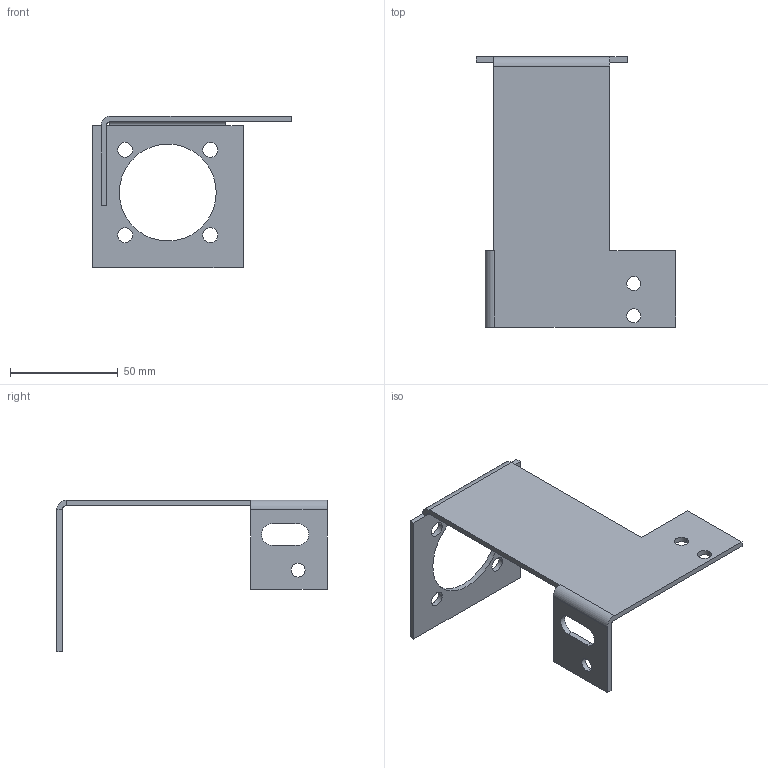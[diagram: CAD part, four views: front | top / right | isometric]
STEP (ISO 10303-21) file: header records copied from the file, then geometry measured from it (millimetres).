
FILE_DESCRIPTION((''),'2;1');
FILE_NAME('HMK2','2020-03-08T',('brijesh.srivastava'),(''),'CREO PARAMETRIC BY PTC INC, 2015080','CREO PARAMETRIC BY PTC INC, 2015080','');
FILE_SCHEMA(('CONFIG_CONTROL_DESIGN'));
Length unit declared in the file: millimetre
Products named in the file (1): HMK2
Bounding box: 92.5 x 125.5 x 70.5 mm (x, y, z)
Volume: 29867.4 mm3; surface area: 26432.5 mm2
Topology: 1 solids, 1 shells, 46 faces, 120 edges, 76 vertices
Faces by surface type: plane 24, cylinder 22
Entity records: 1486 total; most frequent: DIRECTION 256, CARTESIAN_POINT 242, ORIENTED_EDGE 240, EDGE_CURVE 120, AXIS2_PLACEMENT_3D 90, VECTOR 76, LINE 76, VERTEX_POINT 76
